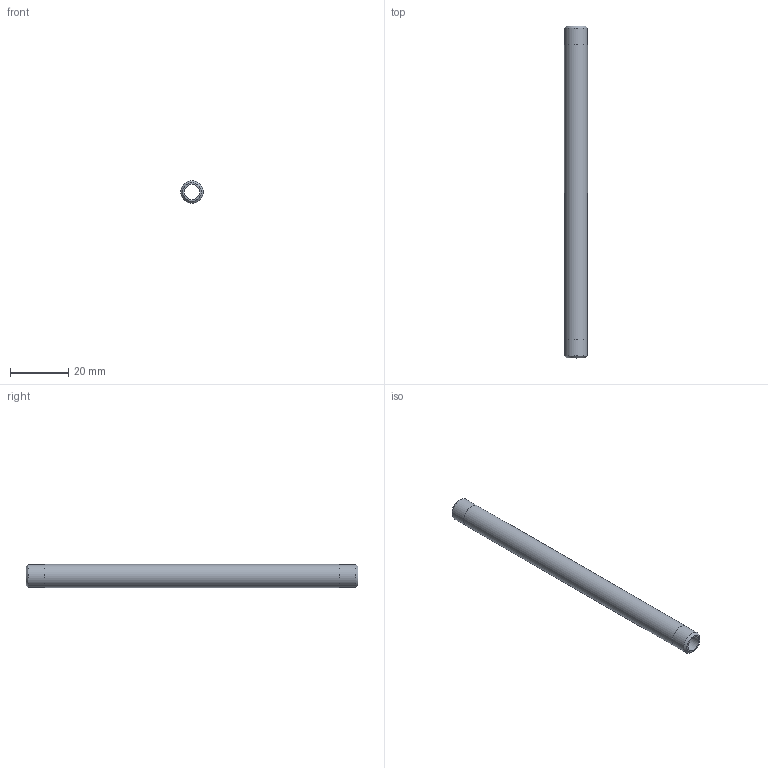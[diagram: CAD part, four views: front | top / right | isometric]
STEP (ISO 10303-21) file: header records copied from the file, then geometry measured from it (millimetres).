
FILE_DESCRIPTION(/* description */ (''),/* implementation_level */ '2;1');
FILE_NAME(/* name */ 'C:/Users/drich/Desktop/SSPN16-4-1_2 v1.step',/* time_stamp */ '2020-01-04T13:22:52-06:00',/* author */ (''),/* organization */ (''),/* preprocessor_version */ 'ST-DEVELOPER v18',/* originating_system */ 'Autodesk Translation Framework v8.12.0.6',/* authorisation */ '');
FILE_SCHEMA (('AUTOMOTIVE_DESIGN { 1 0 10303 214 3 1 1 }','MODEL_BASED_INTEGRATED_MANUFACTURING_SCHEMA'));
Length unit declared in the file: inch
Products named in the file (1): SSPN16-4-1_2
Bounding box: 7.92 x 114.3 x 7.92 mm (x, y, z)
Volume: 3086.5 mm3; surface area: 4780.7 mm2
Topology: 1 solids, 1 shells, 10 faces, 24 edges, 18 vertices
Faces by surface type: cylinder 4, plane 4, cone 2
Full cylindrical faces by diameter (mm): 5.309 x1, 7.874 x2, 7.925 x1
Entity records: 353 total; most frequent: DIRECTION 64, CARTESIAN_POINT 53, ORIENTED_EDGE 48, AXIS2_PLACEMENT_3D 29, EDGE_CURVE 24, CIRCLE 18, VERTEX_POINT 18, EDGE_LOOP 14
